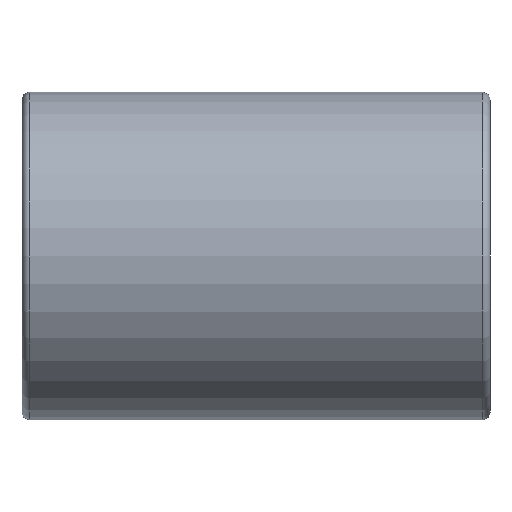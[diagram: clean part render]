
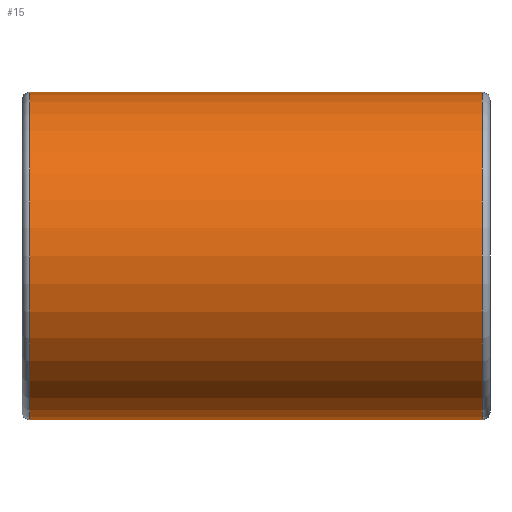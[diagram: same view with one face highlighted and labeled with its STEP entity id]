
A CAD part, front view. The second image highlights one B-rep face of the part: STEP entity #15.
In plain terms, the highlighted cylindrical face has radius 21 mm (diameter 42 mm), a partial arc.
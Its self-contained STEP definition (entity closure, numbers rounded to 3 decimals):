
#15 = ADVANCED_FACE ( 'NONE', ( #22 ), #112, .T. ) ;
#22 = FACE_OUTER_BOUND ( 'NONE', #33, .T. ) ;
#23 = LINE ( 'NONE', #190, #260 ) ;
#33 = EDGE_LOOP ( 'NONE', ( #48, #245, #269, #90 ) ) ;
#35 = CIRCLE ( 'NONE', #135, 21. ) ;
#36 = VERTEX_POINT ( 'NONE', #324 ) ;
#45 = DIRECTION ( 'NONE',  ( 0., 0., 1. ) ) ;
#48 = ORIENTED_EDGE ( 'NONE', *, *, #155, .F. ) ;
#49 = DIRECTION ( 'NONE',  ( 0., 0., 1. ) ) ;
#69 = CARTESIAN_POINT ( 'NONE',  ( 1., 0., 0. ) ) ;
#73 = AXIS2_PLACEMENT_3D ( 'NONE', #382, #259, #49 ) ;
#90 = ORIENTED_EDGE ( 'NONE', *, *, #376, .T. ) ;
#102 = VECTOR ( 'NONE', #402, 1000. ) ;
#112 = CYLINDRICAL_SURFACE ( 'NONE', #250, 21. ) ;
#135 = AXIS2_PLACEMENT_3D ( 'NONE', #69, #344, #252 ) ;
#145 = DIRECTION ( 'NONE',  ( -1., 0., 0. ) ) ;
#147 = CARTESIAN_POINT ( 'NONE',  ( 0., 0., -21. ) ) ;
#155 = EDGE_CURVE ( 'NONE', #36, #187, #288, .T. ) ;
#157 = CARTESIAN_POINT ( 'NONE',  ( 0., 0., 0. ) ) ;
#187 = VERTEX_POINT ( 'NONE', #253 ) ;
#190 = CARTESIAN_POINT ( 'NONE',  ( 0., 0., 21. ) ) ;
#207 = VERTEX_POINT ( 'NONE', #340 ) ;
#245 = ORIENTED_EDGE ( 'NONE', *, *, #397, .T. ) ;
#250 = AXIS2_PLACEMENT_3D ( 'NONE', #157, #145, #45 ) ;
#252 = DIRECTION ( 'NONE',  ( 0., 0., -1. ) ) ;
#253 = CARTESIAN_POINT ( 'NONE',  ( 1., 0., -21. ) ) ;
#259 = DIRECTION ( 'NONE',  ( -1., 0., 0. ) ) ;
#260 = VECTOR ( 'NONE', #417, 1000. ) ;
#268 = CARTESIAN_POINT ( 'NONE',  ( 59., 0., 21. ) ) ;
#269 = ORIENTED_EDGE ( 'NONE', *, *, #368, .T. ) ;
#288 = LINE ( 'NONE', #147, #102 ) ;
#314 = VERTEX_POINT ( 'NONE', #268 ) ;
#324 = CARTESIAN_POINT ( 'NONE',  ( 59., 0., -21. ) ) ;
#325 = CIRCLE ( 'NONE', #73, 21. ) ;
#340 = CARTESIAN_POINT ( 'NONE',  ( 1., 0., 21. ) ) ;
#344 = DIRECTION ( 'NONE',  ( 1., 0., 0. ) ) ;
#368 = EDGE_CURVE ( 'NONE', #314, #207, #23, .T. ) ;
#376 = EDGE_CURVE ( 'NONE', #207, #187, #35, .T. ) ;
#382 = CARTESIAN_POINT ( 'NONE',  ( 59., 0., 0. ) ) ;
#397 = EDGE_CURVE ( 'NONE', #36, #314, #325, .T. ) ;
#402 = DIRECTION ( 'NONE',  ( -1., 0., 0. ) ) ;
#417 = DIRECTION ( 'NONE',  ( -1., 0., 0. ) ) ;
